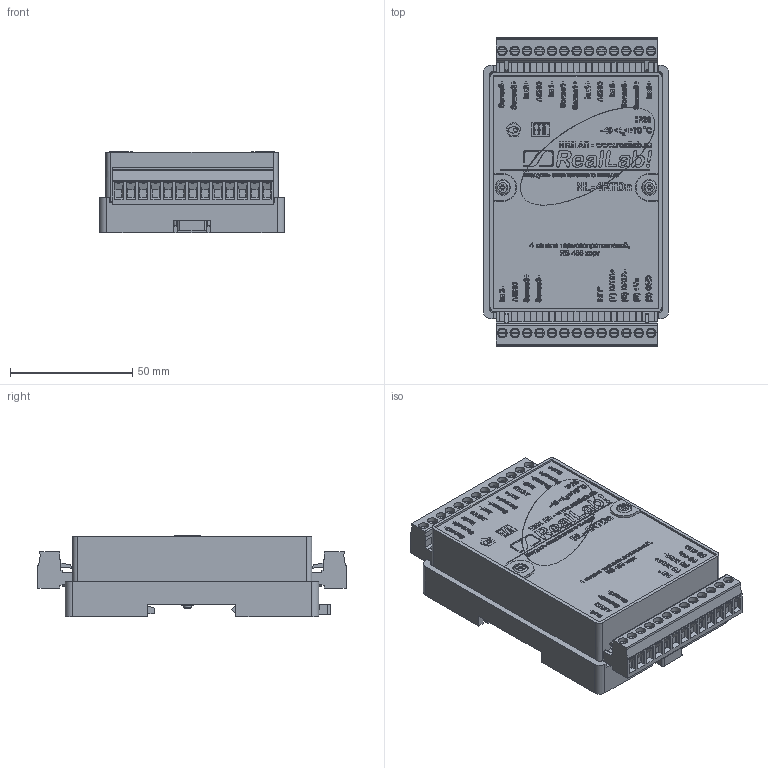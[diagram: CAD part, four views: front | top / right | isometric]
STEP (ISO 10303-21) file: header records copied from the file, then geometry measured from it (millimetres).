
FILE_DESCRIPTION(('STEP AP214'), '1');
FILE_NAME('NL-4RTDn', '', ('UNSPECIFIED'), ('UNSPECIFIED'), 'C3D Converter', 'C3D Toolkit', '');
FILE_SCHEMA(('AUTOMOTIVE_DESIGN { 1 0 10303 214 3 1 1}'));
Length unit declared in the file: millimetre
Products named in the file (1): NL-4RTDn
Bounding box: 75.8 x 126.21 x 33.5 mm (x, y, z)
Volume: 85372.2 mm3; surface area: 90003.4 mm2
Topology: 7 solids, 7 shells, 6472 faces, 17765 edges, 11765 vertices
Faces by surface type: plane 3166, extrusion 2617, cylinder 502, torus 118, cone 68, bspline 1
Full cylindrical faces by diameter (mm): 1.4 x26, 2.5 x4, 3 x30, 3.38 x2, 3.6 x4, 3.95 x26, 4 x2, 5.6 x2, 6.3 x2, 6.4 x2, 8 x2
Entity records: 312787 total; most frequent: CARTESIAN_POINT 107062, ORIENTED_EDGE 35160, DIRECTION 23617, EDGE_CURVE 17580, VECTOR 12959, VERTEX_POINT 11763, LINE 10342, B_SPLINE_CURVE_WITH_KNOTS 8348
